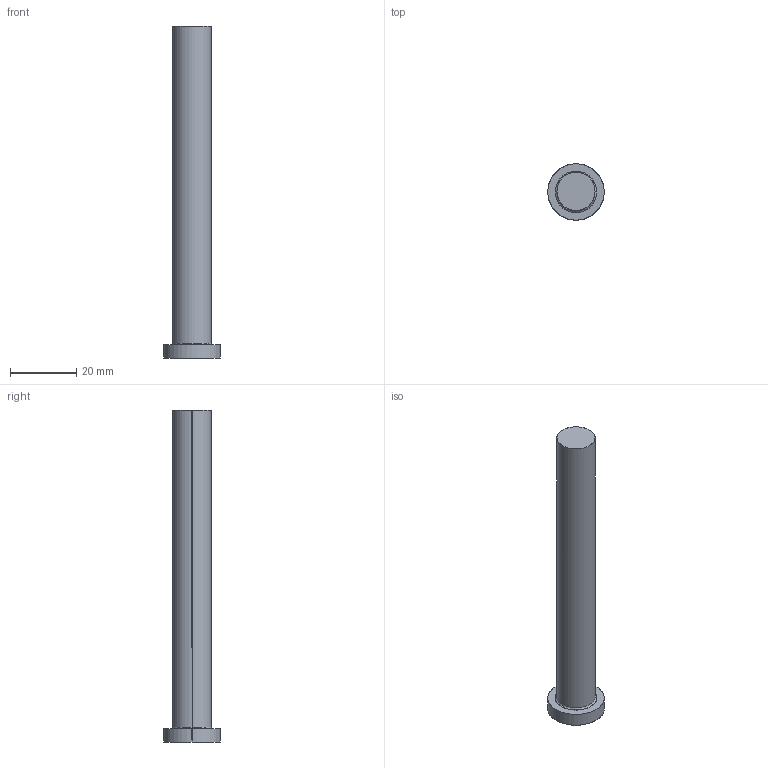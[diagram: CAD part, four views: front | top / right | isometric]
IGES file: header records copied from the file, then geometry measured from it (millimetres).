
Start section: SolidWorks IGES file using analytic representation for surfaces
Global section: file name: D:\Current\W1-2\EPHE-B\EPHE-B11.5-100.igs; native system: SolidWorks 2017; preprocessor: SolidWorks 2017; author: Ravi Kalvai; date: 240411.173405; units: millimetre
Bounding box: 17 x 17 x 100 mm (x, y, z)
Surface area: 4128.3 mm2 (no closed solid volume)
Topology: 0 solids, 0 shells, 9 faces, 152 edges, 152 vertices
Faces by surface type: bspline 5, revolution 4
